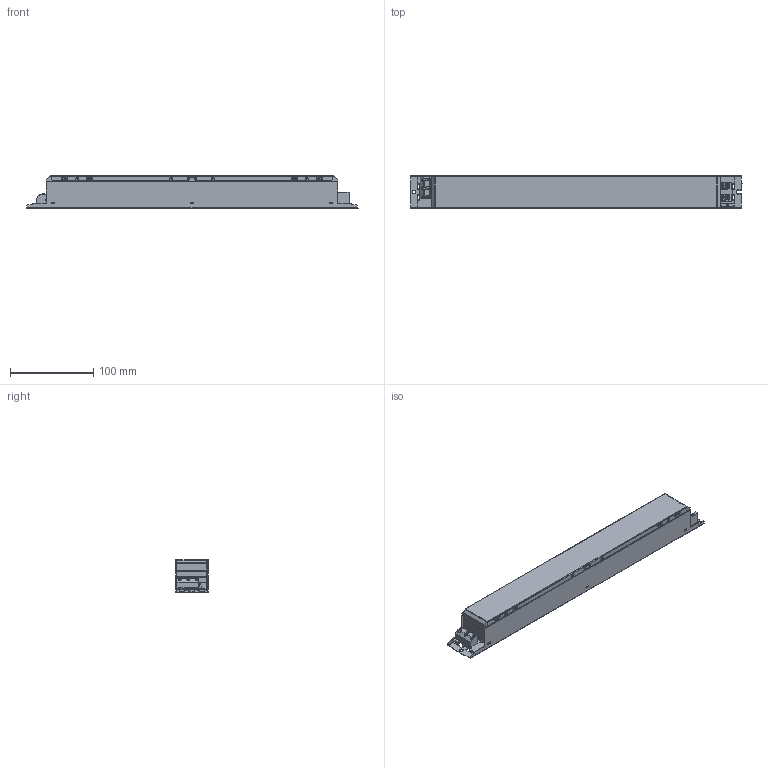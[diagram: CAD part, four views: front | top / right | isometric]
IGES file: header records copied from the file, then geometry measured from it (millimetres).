
Start section: SolidWorks IGES file using analytic representation for surfaces
Global section: file name: D:\ECTR_TEMP\OLQ-batchEngine\queue\temp\3984433swm000.igs; native system: SolidWorks 2017; preprocessor: SolidWorks 2017; author: SYSTEM; date: 191008.152459; units: millimetre
Bounding box: 399 x 39.24 x 39.5 mm (x, y, z)
Surface area: 126843.9 mm2 (no closed solid volume)
Topology: 0 solids, 0 shells, 1823 faces, 14116 edges, 14094 vertices
Faces by surface type: bspline 1214, revolution 609
